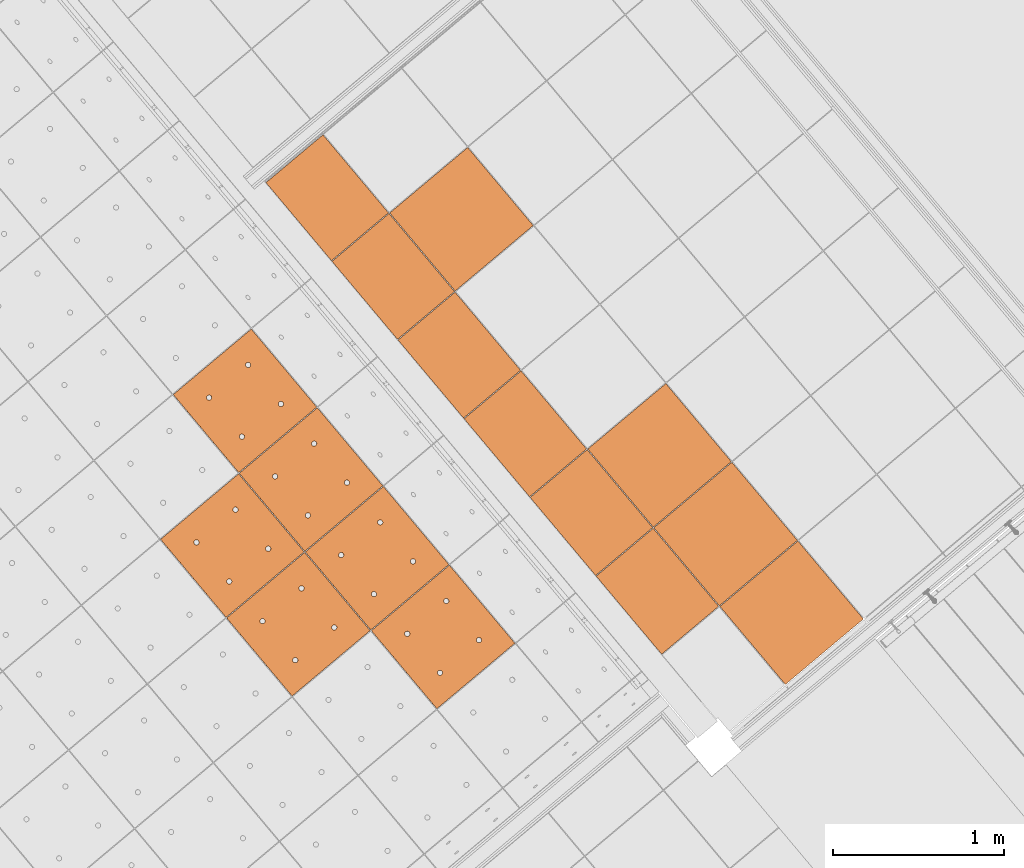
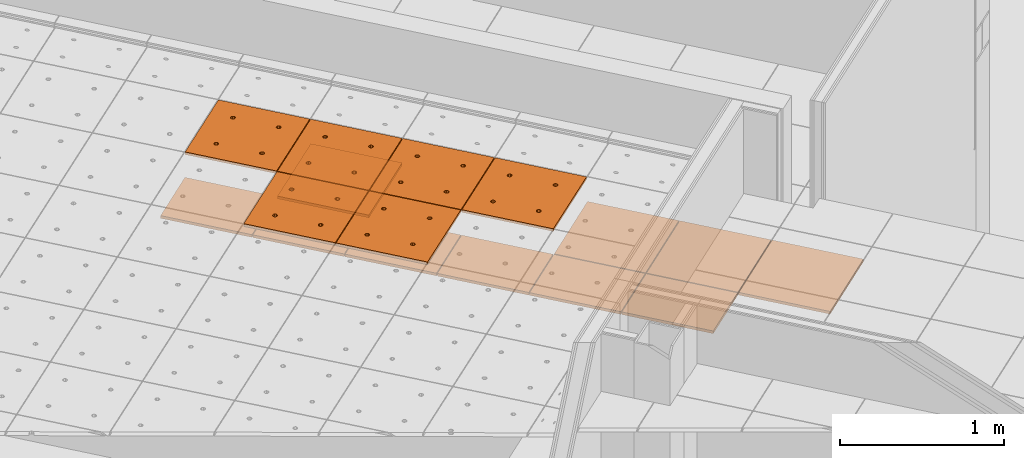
# One storey, part 174 of 338: 16 proxies, 2 elements without a shape of their own.
"""IFC2X3 building model written with IfcOpenShell, lengths in millimetres."""

from ifc_helpers import new_model, entity, si_unit, converted_unit, derived_unit, money_unit, direction, frame, origin_with_axes, place, context, subcontext, project, spatial, faceted_brep, source, transform, mapped, material, type_object, type_shapes, element, aggregate, save


model = new_model("IFC2X3")

# Units and contexts
model_context = context("Model", 3, precision=0.01, world=origin_with_axes(), true_north=direction((0.0, 1.0)))
plan_context = context("Plan", 3, precision=0.01, world=origin_with_axes(), true_north=direction((0.0, 1.0)))
body_context = subcontext(model_context, "Body", "Model", "MODEL_VIEW")
ifc_project = project(units=[si_unit("LENGTHUNIT", "METRE", prefix="MILLI"), si_unit("AREAUNIT", "SQUARE_METRE"), si_unit("VOLUMEUNIT", "CUBIC_METRE"), converted_unit("PLANEANGLEUNIT", "DEGREE", entity("IfcPlaneAngleMeasure", 0.0174532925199), si_unit("PLANEANGLEUNIT", "RADIAN"), dimensions=[0, 0, 0, 0, 0, 0, 0]), money_unit("EUR"), converted_unit("TIMEUNIT", "Year", entity("IfcTimeMeasure", 31556926.0), si_unit("TIMEUNIT", "SECOND"), dimensions=[0, 0, 1, 0, 0, 0, 0]), si_unit("MASSUNIT", "GRAM", prefix="KILO"), si_unit("THERMODYNAMICTEMPERATUREUNIT", "DEGREE_CELSIUS"), si_unit("LUMINOUSINTENSITYUNIT", "LUMEN"), si_unit("ENERGYUNIT", "JOULE", prefix="MEGA"), derived_unit("THERMALCONDUCTANCEUNIT", [(si_unit("POWERUNIT", "WATT"), 1), (si_unit("LENGTHUNIT", "METRE"), -1), (si_unit("THERMODYNAMICTEMPERATUREUNIT", "KELVIN"), -1)]), derived_unit("SPECIFICHEATCAPACITYUNIT", [(si_unit("ENERGYUNIT", "JOULE"), 1), (si_unit("MASSUNIT", "GRAM", prefix="KILO"), -1), (si_unit("THERMODYNAMICTEMPERATUREUNIT", "KELVIN"), -1)]), derived_unit("MASSDENSITYUNIT", [(si_unit("MASSUNIT", "GRAM", prefix="KILO"), 1), (si_unit("VOLUMEUNIT", "CUBIC_METRE"), -1)])], contexts=[model_context, plan_context])

# Site, building, storey
site_placement = place(None, origin_with_axes())
site = spatial("IfcSite", under=ifc_project, at=site_placement, Name="Fortuinstraat Woensdrecht", CompositionType="ELEMENT")
building_placement = place(site_placement, origin_with_axes())
building = spatial("IfcBuilding", under=site, at=building_placement, Name="IKC Fortuna", CompositionType="ELEMENT")
storey_placement = place(building_placement, origin_with_axes())
storey = spatial("IfcBuildingStorey", under=building, at=storey_placement, Name="00 begane grond", CompositionType="ELEMENT", Elevation=0.0)

# Covering, proxies
covering_type = type_object("IfcCoveringType", Name="Curtain Wall Type", PredefinedType="CEILING")
covering_1_placement = place(storey_placement, frame((15581.2998521, 5435.5548951, 3210.0), z_axis=(0.0, 0.0, 1.0), x_axis=(1.0, 0.0, 0.0)))
covering_1 = element("IfcCovering", 1, at=covering_1_placement, inside=storey, type_object=covering_type, Name="45_Plafondafwerking_P02 v", PredefinedType="CEILING")
ifc_material = material(Name="Gipsplaat")
building_element_proxy_type_1 = type_object("IfcBuildingElementProxyType", Name="Distinct Panel 600 x 600 x 20", PredefinedType="NOTDEFINED")
shared_shape_1 = source(origin_with_axes(), body_context, "Body", "Brep", [
    faceted_brep([(-597.499994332, 2.50000201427, -10.0), (-597.499994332, 2.50000201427, 10.0), (-597.499997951, 597.499994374, 10.0), (-597.499997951, 597.499994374, -10.0), (-2.50001005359, 2.49999600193, -10.0), (-2.50001005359, 2.49999600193, 10.0), (-2.49999596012, 597.499989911, 10.0), (-2.49999596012, 597.499989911, -10.0)], [[[0, 1, 2, 3]], [[4, 5, 1, 0]], [[1, 5, 6, 2]], [[3, 2, 6, 7]], [[0, 3, 7, 4]], [[7, 6, 5, 4]]]),
])
proxy_1_placement = place(covering_1_placement, frame((-758.770618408, 1713.04907858, 0.0), z_axis=(0.0, 0.0, 1.0), x_axis=(1.0, 0.0, 0.0)))
proxy_1 = element("IfcBuildingElementProxy", 2, at=proxy_1_placement, type_object=building_element_proxy_type_1, material=ifc_material, Name="__Panel-D", context=body_context, shape_type="MappedRepresentation", body=[
    mapped(shared_shape_1, transform((-422.649621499, 36.9769853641, 0.0), x_axis=(-0.766044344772, -0.642787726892, 0.0), y_axis=(0.642787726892, -0.766044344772, 0.0), z_axis=(0.0, 0.0, 1.0))),
])
proxy_2_placement = place(covering_1_placement, frame((783.919926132, -125.457348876, 0.0), z_axis=(0.0, 0.0, 1.0), x_axis=(1.0, 0.0, 0.0)))
proxy_2 = element("IfcBuildingElementProxy", 3, at=proxy_2_placement, type_object=building_element_proxy_type_1, material=ifc_material, Name="__Panel-D", context=body_context, shape_type="MappedRepresentation", body=[
    mapped(shared_shape_1, transform((-422.649621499, 36.9769853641, 0.0), x_axis=(-0.766044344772, -0.642787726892, 0.0), y_axis=(0.642787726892, -0.766044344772, 0.0), z_axis=(0.0, 0.0, 1.0))),
])
shared_shape_2 = source(origin_with_axes(), body_context, "Body", "Brep", [
    faceted_brep([(-597.500003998, 2.50001005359, -10.0), (-597.500003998, 2.50001005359, 10.0), (-597.499997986, 597.499994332, 10.0), (-597.499997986, 597.499994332, -10.0), (-2.50001008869, 2.4999959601, -10.0), (-2.50001008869, 2.4999959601, 10.0), (-2.50000562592, 597.499997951, 10.0), (-2.50000562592, 597.499997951, -10.0)], [[[0, 1, 2, 3]], [[4, 5, 1, 0]], [[1, 5, 6, 2]], [[3, 2, 6, 7]], [[0, 3, 7, 4]], [[7, 6, 5, 4]]]),
])
proxy_3_placement = place(covering_1_placement, frame((398.247289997, 334.169257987, 0.0), z_axis=(0.0, 0.0, 1.0), x_axis=(1.0, 0.0, 0.0)))
proxy_3 = element("IfcBuildingElementProxy", 4, at=proxy_3_placement, type_object=building_element_proxy_type_1, material=ifc_material, Name="__Panel-D", context=body_context, shape_type="MappedRepresentation", body=[
    mapped(shared_shape_2, transform((-422.649621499, 36.9769853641, 0.0), x_axis=(-0.766044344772, -0.642787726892, 0.0), y_axis=(0.642787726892, -0.766044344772, 0.0), z_axis=(0.0, 0.0, 1.0))),
])
building_element_proxy_type_2 = type_object("IfcBuildingElementProxyType", Name="Distinct Panel 440 x 600 x 20", PredefinedType="NOTDEFINED")
shared_shape_3 = source(origin_with_axes(), body_context, "Body", "Brep", [
    faceted_brep([(-597.49999798, 2.49998182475, -10.0), (-597.49999798, 2.49998182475, 10.0), (-597.499996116, 597.500003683, 10.0), (-597.499996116, 597.500003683, -10.0), (-162.749596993, 2.49999117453, -10.0), (-162.749596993, 2.49999117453, 10.0), (-162.749602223, 597.500004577, 10.0), (-162.749602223, 597.500004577, -10.0)], [[[0, 1, 2, 3]], [[4, 5, 1, 0]], [[1, 5, 6, 2]], [[3, 2, 6, 7]], [[0, 3, 7, 4]], [[7, 6, 5, 4]]]),
])
proxy_4_placement = place(covering_1_placement, frame((-1157.01791089, 1378.87981851, 0.0), z_axis=(0.0, 0.0, 1.0), x_axis=(1.0, 0.0, 0.0)))
proxy_4 = element("IfcBuildingElementProxy", 5, at=proxy_4_placement, type_object=building_element_proxy_type_2, material=ifc_material, Name="__Panel-D", context=body_context, shape_type="MappedRepresentation", body=[
    mapped(shared_shape_3, transform((-484.028935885, -14.5263907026, 0.0), x_axis=(-0.766044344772, -0.642787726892, 0.0), y_axis=(0.642787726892, -0.766044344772, 0.0), z_axis=(0.0, 0.0, 1.0))),
])
proxy_5_placement = place(covering_1_placement, frame((-385.672636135, 459.626606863, 0.0), z_axis=(0.0, 0.0, 1.0), x_axis=(1.0, 0.0, 0.0)))
proxy_5 = element("IfcBuildingElementProxy", 6, at=proxy_5_placement, type_object=building_element_proxy_type_2, material=ifc_material, Name="__Panel-D", context=body_context, shape_type="MappedRepresentation", body=[
    mapped(shared_shape_3, transform((-484.028938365, -14.5263927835, 0.0), x_axis=(-0.766044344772, -0.642787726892, 0.0), y_axis=(0.642787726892, -0.766044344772, 0.0), z_axis=(0.0, 0.0, 1.0))),
])
proxy_6_placement = place(covering_1_placement, frame((385.672636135, -459.626606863, 0.0), z_axis=(0.0, 0.0, 1.0), x_axis=(1.0, 0.0, 0.0)))
proxy_6 = element("IfcBuildingElementProxy", 7, at=proxy_6_placement, type_object=building_element_proxy_type_2, material=ifc_material, Name="__Panel-D", context=body_context, shape_type="MappedRepresentation", body=[
    mapped(shared_shape_3, transform((-484.028938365, -14.5263927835, 0.0), x_axis=(-0.766044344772, -0.642787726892, 0.0), y_axis=(0.642787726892, -0.766044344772, 0.0), z_axis=(0.0, 0.0, 1.0))),
])
proxy_7_placement = place(covering_1_placement, frame((-1542.69054362, 1838.50642823, 0.0), z_axis=(0.0, 0.0, 1.0), x_axis=(1.0, 0.0, 0.0)))
proxy_7 = element("IfcBuildingElementProxy", 8, at=proxy_7_placement, type_object=building_element_proxy_type_2, material=ifc_material, Name="__Panel-D", context=body_context, shape_type="MappedRepresentation", body=[
    mapped(shared_shape_3, transform((-484.028939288, -14.5263935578, 0.0), x_axis=(-0.766044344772, -0.642787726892, 0.0), y_axis=(0.642787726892, -0.766044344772, 0.0), z_axis=(0.0, 0.0, 1.0))),
])
shared_shape_4 = source(origin_with_axes(), body_context, "Body", "Brep", [
    faceted_brep([(-597.500000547, 2.49998396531, -10.0), (-597.500000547, 2.49998396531, 10.0), (-597.499998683, 597.500004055, 10.0), (-597.499998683, 597.500004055, -10.0), (-162.749600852, 2.49999331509, -10.0), (-162.749600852, 2.49999331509, 10.0), (-162.749598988, 597.500013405, 10.0), (-162.749598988, 597.500013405, -10.0)], [[[0, 1, 2, 3]], [[4, 5, 1, 0]], [[1, 5, 6, 2]], [[3, 2, 6, 7]], [[0, 3, 7, 4]], [[7, 6, 5, 4]]]),
])
type_shapes(building_element_proxy_type_2, [shared_shape_3, shared_shape_4])
proxy_8_placement = place(covering_1_placement, origin_with_axes())
proxy_8 = element("IfcBuildingElementProxy", 9, at=proxy_8_placement, type_object=building_element_proxy_type_2, material=ifc_material, Name="__Panel-D", context=body_context, shape_type="MappedRepresentation", body=[
    mapped(shared_shape_4, transform((-484.028938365, -14.5263927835, 0.0), x_axis=(-0.766044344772, -0.642787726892, 0.0), y_axis=(0.642787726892, -0.766044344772, 0.0), z_axis=(0.0, 0.0, 1.0))),
])
proxy_9_placement = place(covering_1_placement, frame((-771.34527227, 919.253213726, 0.0), z_axis=(0.0, 0.0, 1.0), x_axis=(1.0, 0.0, 0.0)))
proxy_9 = element("IfcBuildingElementProxy", 10, at=proxy_9_placement, type_object=building_element_proxy_type_2, material=ifc_material, Name="__Panel-D", context=body_context, shape_type="MappedRepresentation", body=[
    mapped(shared_shape_4, transform((-484.028938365, -14.5263927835, 0.0), x_axis=(-0.766044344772, -0.642787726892, 0.0), y_axis=(0.642787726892, -0.766044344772, 0.0), z_axis=(0.0, 0.0, 1.0))),
])
shared_shape_5 = source(origin_with_axes(), body_context, "Body", "Brep", [
    faceted_brep([(-597.500003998, 2.50001005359, -10.0), (-597.500003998, 2.50001005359, 10.0), (-597.499997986, 597.499994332, 10.0), (-597.499997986, 597.499994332, -10.0), (-2.50001008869, 2.4999959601, -10.0), (-2.50001008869, 2.4999959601, 10.0), (-2.50000562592, 597.499997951, 10.0), (-2.50000562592, 597.499997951, -10.0)], [[[0, 1, 2, 3]], [[4, 5, 1, 0]], [[1, 5, 6, 2]], [[3, 2, 6, 7]], [[0, 3, 7, 4]], [[7, 6, 5, 4]]]),
])
type_shapes(building_element_proxy_type_1, [shared_shape_1, shared_shape_2, shared_shape_5])
proxy_10_placement = place(covering_1_placement, frame((1169.59256227, -585.083955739, 0.0), z_axis=(0.0, 0.0, 1.0), x_axis=(1.0, 0.0, 0.0)))
proxy_10 = element("IfcBuildingElementProxy", 11, at=proxy_10_placement, type_object=building_element_proxy_type_1, material=ifc_material, Name="__Panel-D", context=body_context, shape_type="MappedRepresentation", body=[
    mapped(shared_shape_5, transform((-422.649621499, 36.9769853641, 0.0), x_axis=(-0.766044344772, -0.642787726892, 0.0), y_axis=(0.642787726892, -0.766044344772, 0.0), z_axis=(0.0, 0.0, 1.0))),
])
aggregate(covering_1, [proxy_8, proxy_3, proxy_10, proxy_4, proxy_5, proxy_1, proxy_9, proxy_6, proxy_7, proxy_2])

covering_2_placement = place(storey_placement, frame((15863.124366, 4456.31398675, 4619.99995334), z_axis=(0.0, 0.0, 1.0), x_axis=(1.0, 0.0, 0.0)))
covering_2 = element("IfcCovering", 12, at=covering_2_placement, inside=storey, type_object=covering_type, Name="45_Plafondafwerking_P01", PredefinedType="CEILING")
building_element_proxy_type_3 = type_object("IfcBuildingElementProxyType", Name="Main Panel 600 x 600 x 20", PredefinedType="NOTDEFINED")
shared_shape_6 = source(origin_with_axes(), body_context, "Body", "Brep", [
    faceted_brep([(2.50000262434, 2.50000269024, -10.0), (299.999999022, 2.50000269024, -10.0), (299.999999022, 2.50000269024, 10.0), (2.50000262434, 2.50000269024, 10.0), (2.50000262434, 300.000003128, -10.0), (2.50000262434, 597.500003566, -10.0), (299.999999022, 597.500003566, -10.0), (597.499995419, 597.500003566, -10.0), (597.499995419, 300.000003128, -10.0), (597.499995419, 2.50000269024, -10.0), (166.250000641, 450.062333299, -10.0), (165.794233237, 452.647118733, -10.0), (164.896546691, 455.113492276, -10.0), (163.584216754, 457.386514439, -10.0), (161.897117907, 459.397120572, -10.0), (159.886511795, 461.084219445, -10.0), (157.613489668, 462.396549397, -10.0), (155.147116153, 463.294235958, -10.0), (152.56233076, 463.750003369, -10.0), (149.937670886, 463.750003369, -10.0), (147.352885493, 463.294235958, -10.0), (144.886511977, 462.396549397, -10.0), (142.61348985, 461.084219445, -10.0), (140.602883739, 459.397120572, -10.0), (138.915784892, 457.386514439, -10.0), (137.603454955, 455.113492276, -10.0), (136.705768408, 452.647118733, -10.0), (136.250001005, 450.062333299, -10.0), (136.250001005, 448.750003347, -10.0), (136.250001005, 447.437673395, -10.0), (136.705768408, 444.852887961, -10.0), (137.603454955, 442.386514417, -10.0), (138.915784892, 440.113492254, -10.0), (140.602883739, 438.102886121, -10.0), (142.61348985, 436.415787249, -10.0), (144.886511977, 435.103457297, -10.0), (147.352885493, 434.205770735, -10.0), (149.937670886, 433.750003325, -10.0), (152.56233076, 433.750003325, -10.0), (155.147116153, 434.205770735, -10.0), (157.613489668, 435.103457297, -10.0), (159.886511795, 436.415787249, -10.0), (161.897117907, 438.102886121, -10.0), (163.584216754, 440.113492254, -10.0), (164.896546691, 442.386514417, -10.0), (165.794233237, 444.852887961, -10.0), (166.250000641, 447.437673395, -10.0), (463.749997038, 450.062333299, -10.0), (463.294229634, 452.647118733, -10.0), (462.396543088, 455.113492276, -10.0), (461.084213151, 457.386514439, -10.0), (459.397114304, 459.397120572, -10.0), (457.386508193, 461.084219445, -10.0), (455.113486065, 462.396549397, -10.0), (452.64711255, 463.294235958, -10.0), (450.062327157, 463.750003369, -10.0), (447.437667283, 463.750003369, -10.0), (444.85288189, 463.294235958, -10.0), (442.386508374, 462.396549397, -10.0), (440.113486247, 461.084219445, -10.0), (438.102880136, 459.397120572, -10.0), (436.415781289, 457.386514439, -10.0), (435.103451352, 455.113492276, -10.0), (434.205764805, 452.647118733, -10.0), (433.749997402, 450.062333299, -10.0), (433.749997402, 448.750003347, -10.0), (433.749997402, 447.437673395, -10.0), (434.205764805, 444.852887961, -10.0), (435.103451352, 442.386514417, -10.0), (436.415781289, 440.113492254, -10.0), (438.102880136, 438.102886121, -10.0), (440.113486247, 436.415787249, -10.0), (442.386508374, 435.103457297, -10.0), (444.85288189, 434.205770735, -10.0), (447.437667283, 433.750003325, -10.0), (450.062327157, 433.750003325, -10.0), (452.64711255, 434.205770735, -10.0), (455.113486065, 435.103457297, -10.0), (457.386508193, 436.415787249, -10.0), (459.397114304, 438.102886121, -10.0), (461.084213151, 440.113492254, -10.0), (462.396543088, 442.386514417, -10.0), (463.294229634, 444.852887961, -10.0), (463.749997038, 447.437673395, -10.0), (463.749997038, 152.562332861, -10.0), (463.294229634, 155.147118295, -10.0), (462.396543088, 157.613491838, -10.0), (461.084213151, 159.886514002, -10.0), (459.397114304, 161.897120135, -10.0), (457.386508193, 163.584219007, -10.0), (455.113486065, 164.896548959, -10.0), (452.64711255, 165.79423552, -10.0), (450.062327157, 166.250002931, -10.0), (447.437667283, 166.250002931, -10.0), (444.85288189, 165.79423552, -10.0), (442.386508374, 164.896548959, -10.0), (440.113486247, 163.584219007, -10.0), (438.102880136, 161.897120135, -10.0), (436.415781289, 159.886514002, -10.0), (435.103451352, 157.613491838, -10.0), (434.205764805, 155.147118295, -10.0), (433.749997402, 152.562332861, -10.0), (433.749997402, 151.250002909, -10.0), (433.749997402, 149.937672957, -10.0), (434.205764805, 147.352887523, -10.0), (435.103451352, 144.88651398, -10.0), (436.415781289, 142.613491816, -10.0), (438.102880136, 140.602885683, -10.0), (440.113486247, 138.915786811, -10.0), (442.386508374, 137.603456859, -10.0), (444.85288189, 136.705770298, -10.0), (447.437667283, 136.250002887, -10.0), (450.062327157, 136.250002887, -10.0), (452.64711255, 136.705770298, -10.0), (455.113486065, 137.603456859, -10.0), (457.386508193, 138.915786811, -10.0), (459.397114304, 140.602885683, -10.0), (461.084213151, 142.613491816, -10.0), (462.396543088, 144.88651398, -10.0), (463.294229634, 147.352887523, -10.0), (463.749997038, 149.937672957, -10.0), (166.250000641, 152.562332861, -10.0), (165.794233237, 155.147118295, -10.0), (164.896546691, 157.613491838, -10.0), (163.584216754, 159.886514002, -10.0), (161.897117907, 161.897120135, -10.0), (159.886511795, 163.584219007, -10.0), (157.613489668, 164.896548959, -10.0), (155.147116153, 165.79423552, -10.0), (152.56233076, 166.250002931, -10.0), (149.937670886, 166.250002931, -10.0), (147.352885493, 165.79423552, -10.0), (144.886511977, 164.896548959, -10.0), (142.61348985, 163.584219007, -10.0), (140.602883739, 161.897120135, -10.0), (138.915784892, 159.886514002, -10.0), (137.603454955, 157.613491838, -10.0), (136.705768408, 155.147118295, -10.0), (136.250001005, 152.562332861, -10.0), (136.250001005, 151.250002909, -10.0), (136.250001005, 149.937672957, -10.0), (136.705768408, 147.352887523, -10.0), (137.603454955, 144.88651398, -10.0), (138.915784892, 142.613491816, -10.0), (140.602883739, 140.602885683, -10.0), (142.61348985, 138.915786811, -10.0), (144.886511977, 137.603456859, -10.0), (147.352885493, 136.705770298, -10.0), (149.937670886, 136.250002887, -10.0), (152.56233076, 136.250002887, -10.0), (155.147116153, 136.705770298, -10.0), (157.613489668, 137.603456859, -10.0), (159.886511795, 138.915786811, -10.0), (161.897117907, 140.602885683, -10.0), (163.584216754, 142.613491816, -10.0), (164.896546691, 144.88651398, -10.0), (165.794233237, 147.352887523, -10.0), (166.250000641, 149.937672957, -10.0), (597.499995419, 2.50000269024, 10.0), (597.499995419, 300.000003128, 10.0), (597.499995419, 597.500003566, 10.0), (299.999999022, 597.500003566, 10.0), (2.50000262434, 597.500003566, 10.0), (2.50000262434, 300.000003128, 10.0), (166.250000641, 450.062333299, 10.0), (166.250000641, 447.437673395, 10.0), (165.794233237, 444.852887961, 10.0), (164.896546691, 442.386514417, 10.0), (163.584216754, 440.113492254, 10.0), (161.897117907, 438.102886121, 10.0), (159.886511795, 436.415787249, 10.0), (157.613489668, 435.103457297, 10.0), (155.147116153, 434.205770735, 10.0), (152.56233076, 433.750003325, 10.0), (149.937670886, 433.750003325, 10.0), (147.352885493, 434.205770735, 10.0), (144.886511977, 435.103457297, 10.0), (142.61348985, 436.415787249, 10.0), (140.602883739, 438.102886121, 10.0), (138.915784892, 440.113492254, 10.0), (137.603454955, 442.386514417, 10.0), (136.705768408, 444.852887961, 10.0), (136.250001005, 447.437673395, 10.0), (136.250001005, 448.750003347, 10.0), (136.250001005, 450.062333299, 10.0), (136.705768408, 452.647118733, 10.0), (137.603454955, 455.113492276, 10.0), (138.915784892, 457.386514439, 10.0), (140.602883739, 459.397120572, 10.0), (142.61348985, 461.084219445, 10.0), (144.886511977, 462.396549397, 10.0), (147.352885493, 463.294235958, 10.0), (149.937670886, 463.750003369, 10.0), (152.56233076, 463.750003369, 10.0), (155.147116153, 463.294235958, 10.0), (157.613489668, 462.396549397, 10.0), (159.886511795, 461.084219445, 10.0), (161.897117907, 459.397120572, 10.0), (163.584216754, 457.386514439, 10.0), (164.896546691, 455.113492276, 10.0), (165.794233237, 452.647118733, 10.0), (463.749997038, 450.062333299, 10.0), (463.749997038, 447.437673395, 10.0), (463.294229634, 444.852887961, 10.0), (462.396543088, 442.386514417, 10.0), (461.084213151, 440.113492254, 10.0), (459.397114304, 438.102886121, 10.0), (457.386508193, 436.415787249, 10.0), (455.113486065, 435.103457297, 10.0), (452.64711255, 434.205770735, 10.0), (450.062327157, 433.750003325, 10.0), (447.437667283, 433.750003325, 10.0), (444.85288189, 434.205770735, 10.0), (442.386508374, 435.103457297, 10.0), (440.113486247, 436.415787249, 10.0), (438.102880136, 438.102886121, 10.0), (436.415781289, 440.113492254, 10.0), (435.103451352, 442.386514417, 10.0), (434.205764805, 444.852887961, 10.0), (433.749997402, 447.437673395, 10.0), (433.749997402, 448.750003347, 10.0), (433.749997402, 450.062333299, 10.0), (434.205764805, 452.647118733, 10.0), (435.103451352, 455.113492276, 10.0), (436.415781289, 457.386514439, 10.0), (438.102880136, 459.397120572, 10.0), (440.113486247, 461.084219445, 10.0), (442.386508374, 462.396549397, 10.0), (444.85288189, 463.294235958, 10.0), (447.437667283, 463.750003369, 10.0), (450.062327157, 463.750003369, 10.0), (452.64711255, 463.294235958, 10.0), (455.113486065, 462.396549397, 10.0), (457.386508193, 461.084219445, 10.0), (459.397114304, 459.397120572, 10.0), (461.084213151, 457.386514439, 10.0), (462.396543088, 455.113492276, 10.0), (463.294229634, 452.647118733, 10.0), (463.749997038, 152.562332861, 10.0), (463.749997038, 149.937672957, 10.0), (463.294229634, 147.352887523, 10.0), (462.396543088, 144.88651398, 10.0), (461.084213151, 142.613491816, 10.0), (459.397114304, 140.602885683, 10.0), (457.386508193, 138.915786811, 10.0), (455.113486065, 137.603456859, 10.0), (452.64711255, 136.705770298, 10.0), (450.062327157, 136.250002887, 10.0), (447.437667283, 136.250002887, 10.0), (444.85288189, 136.705770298, 10.0), (442.386508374, 137.603456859, 10.0), (440.113486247, 138.915786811, 10.0), (438.102880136, 140.602885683, 10.0), (436.415781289, 142.613491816, 10.0), (435.103451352, 144.88651398, 10.0), (434.205764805, 147.352887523, 10.0), (433.749997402, 149.937672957, 10.0), (433.749997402, 151.250002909, 10.0), (433.749997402, 152.562332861, 10.0), (434.205764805, 155.147118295, 10.0), (435.103451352, 157.613491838, 10.0), (436.415781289, 159.886514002, 10.0), (438.102880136, 161.897120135, 10.0), (440.113486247, 163.584219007, 10.0), (442.386508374, 164.896548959, 10.0), (444.85288189, 165.79423552, 10.0), (447.437667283, 166.250002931, 10.0), (450.062327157, 166.250002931, 10.0), (452.64711255, 165.79423552, 10.0), (455.113486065, 164.896548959, 10.0), (457.386508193, 163.584219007, 10.0), (459.397114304, 161.897120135, 10.0), (461.084213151, 159.886514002, 10.0), (462.396543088, 157.613491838, 10.0), (463.294229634, 155.147118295, 10.0), (166.250000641, 152.562332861, 10.0), (166.250000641, 149.937672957, 10.0), (165.794233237, 147.352887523, 10.0), (164.896546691, 144.88651398, 10.0), (163.584216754, 142.613491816, 10.0), (161.897117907, 140.602885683, 10.0), (159.886511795, 138.915786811, 10.0), (157.613489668, 137.603456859, 10.0), (155.147116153, 136.705770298, 10.0), (152.56233076, 136.250002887, 10.0), (149.937670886, 136.250002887, 10.0), (147.352885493, 136.705770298, 10.0), (144.886511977, 137.603456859, 10.0), (142.61348985, 138.915786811, 10.0), (140.602883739, 140.602885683, 10.0), (138.915784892, 142.613491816, 10.0), (137.603454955, 144.88651398, 10.0), (136.705768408, 147.352887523, 10.0), (136.250001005, 149.937672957, 10.0), (136.250001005, 151.250002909, 10.0), (136.250001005, 152.562332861, 10.0), (136.705768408, 155.147118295, 10.0), (137.603454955, 157.613491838, 10.0), (138.915784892, 159.886514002, 10.0), (140.602883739, 161.897120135, 10.0), (142.61348985, 163.584219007, 10.0), (144.886511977, 164.896548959, 10.0), (147.352885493, 165.79423552, 10.0), (149.937670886, 166.250002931, 10.0), (152.56233076, 166.250002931, 10.0), (155.147116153, 165.79423552, 10.0), (157.613489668, 164.896548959, 10.0), (159.886511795, 163.584219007, 10.0), (161.897117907, 161.897120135, 10.0), (163.584216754, 159.886514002, 10.0), (164.896546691, 157.613491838, 10.0), (165.794233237, 155.147118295, 10.0)], [[[0, 1, 2, 3]], [[0, 4, 5, 6, 7, 8, 9, 1], [10, 11, 12, 13, 14, 15, 16, 17, 18, 19, 20, 21, 22, 23, 24, 25, 26, 27, 28, 29, 30, 31, 32, 33, 34, 35, 36, 37, 38, 39, 40, 41, 42, 43, 44, 45, 46], [47, 48, 49, 50, 51, 52, 53, 54, 55, 56, 57, 58, 59, 60, 61, 62, 63, 64, 65, 66, 67, 68, 69, 70, 71, 72, 73, 74, 75, 76, 77, 78, 79, 80, 81, 82, 83], [84, 85, 86, 87, 88, 89, 90, 91, 92, 93, 94, 95, 96, 97, 98, 99, 100, 101, 102, 103, 104, 105, 106, 107, 108, 109, 110, 111, 112, 113, 114, 115, 116, 117, 118, 119, 120], [121, 122, 123, 124, 125, 126, 127, 128, 129, 130, 131, 132, 133, 134, 135, 136, 137, 138, 139, 140, 141, 142, 143, 144, 145, 146, 147, 148, 149, 150, 151, 152, 153, 154, 155, 156, 157]], [[1, 9, 158, 2]], [[3, 2, 158, 159, 160, 161, 162, 163], [164, 165, 166, 167, 168, 169, 170, 171, 172, 173, 174, 175, 176, 177, 178, 179, 180, 181, 182, 183, 184, 185, 186, 187, 188, 189, 190, 191, 192, 193, 194, 195, 196, 197, 198, 199, 200], [201, 202, 203, 204, 205, 206, 207, 208, 209, 210, 211, 212, 213, 214, 215, 216, 217, 218, 219, 220, 221, 222, 223, 224, 225, 226, 227, 228, 229, 230, 231, 232, 233, 234, 235, 236, 237], [238, 239, 240, 241, 242, 243, 244, 245, 246, 247, 248, 249, 250, 251, 252, 253, 254, 255, 256, 257, 258, 259, 260, 261, 262, 263, 264, 265, 266, 267, 268, 269, 270, 271, 272, 273, 274], [275, 276, 277, 278, 279, 280, 281, 282, 283, 284, 285, 286, 287, 288, 289, 290, 291, 292, 293, 294, 295, 296, 297, 298, 299, 300, 301, 302, 303, 304, 305, 306, 307, 308, 309, 310, 311]], [[4, 0, 3, 163]], [[5, 4, 163, 162]], [[6, 5, 162, 161]], [[7, 6, 161, 160]], [[8, 7, 160, 159]], [[9, 8, 159, 158]], [[11, 10, 164, 200]], [[12, 11, 200, 199]], [[13, 12, 199, 198]], [[14, 13, 198, 197]], [[15, 14, 197, 196]], [[16, 15, 196, 195]], [[17, 16, 195, 194]], [[18, 17, 194, 193]], [[19, 18, 193, 192]], [[20, 19, 192, 191]], [[21, 20, 191, 190]], [[22, 21, 190, 189]], [[23, 22, 189, 188]], [[24, 23, 188, 187]], [[25, 24, 187, 186]], [[26, 25, 186, 185]], [[27, 26, 185, 184]], [[28, 27, 184, 183]], [[29, 28, 183, 182]], [[30, 29, 182, 181]], [[31, 30, 181, 180]], [[32, 31, 180, 179]], [[33, 32, 179, 178]], [[34, 33, 178, 177]], [[35, 34, 177, 176]], [[36, 35, 176, 175]], [[37, 36, 175, 174]], [[38, 37, 174, 173]], [[39, 38, 173, 172]], [[40, 39, 172, 171]], [[41, 40, 171, 170]], [[42, 41, 170, 169]], [[43, 42, 169, 168]], [[44, 43, 168, 167]], [[45, 44, 167, 166]], [[46, 45, 166, 165]], [[10, 46, 165, 164]], [[48, 47, 201, 237]], [[49, 48, 237, 236]], [[50, 49, 236, 235]], [[51, 50, 235, 234]], [[52, 51, 234, 233]], [[53, 52, 233, 232]], [[54, 53, 232, 231]], [[55, 54, 231, 230]], [[56, 55, 230, 229]], [[57, 56, 229, 228]], [[58, 57, 228, 227]], [[59, 58, 227, 226]], [[60, 59, 226, 225]], [[61, 60, 225, 224]], [[62, 61, 224, 223]], [[63, 62, 223, 222]], [[64, 63, 222, 221]], [[65, 64, 221, 220]], [[66, 65, 220, 219]], [[67, 66, 219, 218]], [[68, 67, 218, 217]], [[69, 68, 217, 216]], [[70, 69, 216, 215]], [[71, 70, 215, 214]], [[72, 71, 214, 213]], [[73, 72, 213, 212]], [[74, 73, 212, 211]], [[75, 74, 211, 210]], [[76, 75, 210, 209]], [[77, 76, 209, 208]], [[78, 77, 208, 207]], [[79, 78, 207, 206]], [[80, 79, 206, 205]], [[81, 80, 205, 204]], [[82, 81, 204, 203]], [[83, 82, 203, 202]], [[47, 83, 202, 201]], [[85, 84, 238, 274]], [[86, 85, 274, 273]], [[87, 86, 273, 272]], [[88, 87, 272, 271]], [[89, 88, 271, 270]], [[90, 89, 270, 269]], [[91, 90, 269, 268]], [[92, 91, 268, 267]], [[93, 92, 267, 266]], [[94, 93, 266, 265]], [[95, 94, 265, 264]], [[96, 95, 264, 263]], [[97, 96, 263, 262]], [[98, 97, 262, 261]], [[99, 98, 261, 260]], [[100, 99, 260, 259]], [[101, 100, 259, 258]], [[102, 101, 258, 257]], [[103, 102, 257, 256]], [[104, 103, 256, 255]], [[105, 104, 255, 254]], [[106, 105, 254, 253]], [[107, 106, 253, 252]], [[108, 107, 252, 251]], [[109, 108, 251, 250]], [[110, 109, 250, 249]], [[111, 110, 249, 248]], [[112, 111, 248, 247]], [[113, 112, 247, 246]], [[114, 113, 246, 245]], [[115, 114, 245, 244]], [[116, 115, 244, 243]], [[117, 116, 243, 242]], [[118, 117, 242, 241]], [[119, 118, 241, 240]], [[120, 119, 240, 239]], [[84, 120, 239, 238]], [[122, 121, 275, 311]], [[123, 122, 311, 310]], [[124, 123, 310, 309]], [[125, 124, 309, 308]], [[126, 125, 308, 307]], [[127, 126, 307, 306]], [[128, 127, 306, 305]], [[129, 128, 305, 304]], [[130, 129, 304, 303]], [[131, 130, 303, 302]], [[132, 131, 302, 301]], [[133, 132, 301, 300]], [[134, 133, 300, 299]], [[135, 134, 299, 298]], [[136, 135, 298, 297]], [[137, 136, 297, 296]], [[138, 137, 296, 295]], [[139, 138, 295, 294]], [[140, 139, 294, 293]], [[141, 140, 293, 292]], [[142, 141, 292, 291]], [[143, 142, 291, 290]], [[144, 143, 290, 289]], [[145, 144, 289, 288]], [[146, 145, 288, 287]], [[147, 146, 287, 286]], [[148, 147, 286, 285]], [[149, 148, 285, 284]], [[150, 149, 284, 283]], [[151, 150, 283, 282]], [[152, 151, 282, 281]], [[153, 152, 281, 280]], [[154, 153, 280, 279]], [[155, 154, 279, 278]], [[156, 155, 278, 277]], [[157, 156, 277, 276]], [[121, 157, 276, 275]]]),
])
type_shapes(building_element_proxy_type_3, [shared_shape_6])
proxy_11_placement = place(covering_2_placement, frame((-2304.65760251, 1631.61520604, 3.78777225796), z_axis=(0.0, 0.0, 1.0), x_axis=(0.642787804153, -0.766044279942, 0.0)))
proxy_11 = element("IfcBuildingElementProxy", 13, at=proxy_11_placement, type_object=building_element_proxy_type_3, material=ifc_material, Name="__600x010 Rockfon Krios", context=body_context, shape_type="MappedRepresentation", body=[
    mapped(shared_shape_6, transform((-300.0, 299.995617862, -1.62150043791), x_axis=(0.0, -0.999985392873, 0.00540500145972), y_axis=(1.0, 0.0, 0.0), z_axis=(0.0, 0.00540500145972, 0.999985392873))),
])
proxy_12_placement = place(covering_2_placement, frame((-1918.98492002, 1171.98863807, 3.78777225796), z_axis=(0.0, 0.0, 1.0), x_axis=(0.642787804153, -0.766044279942, 0.0)))
proxy_12 = element("IfcBuildingElementProxy", 14, at=proxy_12_placement, type_object=building_element_proxy_type_3, material=ifc_material, Name="__600x023 Rockfon Krios", context=body_context, shape_type="MappedRepresentation", body=[
    mapped(shared_shape_6, transform((-300.0, 299.995617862, -1.62150043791), x_axis=(0.0, -0.999985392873, 0.00540500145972), y_axis=(1.0, 0.0, 0.0), z_axis=(0.0, 0.00540500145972, 0.999985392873))),
])
proxy_13_placement = place(covering_2_placement, frame((-2378.60477416, 786.321589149, 7.03077313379), z_axis=(0.0, 0.0, 1.0), x_axis=(0.642787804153, -0.766044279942, 0.0)))
proxy_13 = element("IfcBuildingElementProxy", 15, at=proxy_13_placement, type_object=building_element_proxy_type_3, material=ifc_material, Name="__600x024 Rockfon Krios", context=body_context, shape_type="MappedRepresentation", body=[
    mapped(shared_shape_6, transform((-300.0, 299.995617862, -1.62150043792), x_axis=(0.0, -0.999985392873, 0.00540500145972), y_axis=(1.0, 0.0, 0.0), z_axis=(0.0, 0.00540500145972, 0.999985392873))),
])
proxy_14_placement = place(covering_2_placement, frame((-1533.31223753, 712.362070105, 3.78777225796), z_axis=(0.0, 0.0, 1.0), x_axis=(0.642787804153, -0.766044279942, 0.0)))
proxy_14 = element("IfcBuildingElementProxy", 16, at=proxy_14_placement, type_object=building_element_proxy_type_3, material=ifc_material, Name="__600x036 Rockfon Krios", context=body_context, shape_type="MappedRepresentation", body=[
    mapped(shared_shape_6, transform((-300.0, 299.995617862, -1.62150043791), x_axis=(0.0, -0.999985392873, 0.00540500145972), y_axis=(1.0, 0.0, 0.0), z_axis=(0.0, 0.00540500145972, 0.999985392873))),
])
proxy_15_placement = place(covering_2_placement, frame((-1992.93209167, 326.695021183, 7.03077313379), z_axis=(0.0, 0.0, 1.0), x_axis=(0.642787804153, -0.766044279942, 0.0)))
proxy_15 = element("IfcBuildingElementProxy", 17, at=proxy_15_placement, type_object=building_element_proxy_type_3, material=ifc_material, Name="__600x037 Rockfon Krios", context=body_context, shape_type="MappedRepresentation", body=[
    mapped(shared_shape_6, transform((-300.0, 299.995617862, -1.62150043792), x_axis=(0.0, -0.999985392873, 0.00540500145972), y_axis=(1.0, 0.0, 0.0), z_axis=(0.0, 0.00540500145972, 0.999985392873))),
])
proxy_16_placement = place(covering_2_placement, frame((-1147.63955503, 252.73550214, 3.78777225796), z_axis=(0.0, 0.0, 1.0), x_axis=(0.642787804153, -0.766044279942, 0.0)))
proxy_16 = element("IfcBuildingElementProxy", 18, at=proxy_16_placement, type_object=building_element_proxy_type_3, material=ifc_material, Name="__600x049 Rockfon Krios", context=body_context, shape_type="MappedRepresentation", body=[
    mapped(shared_shape_6, transform((-300.0, 299.995617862, -1.62150043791), x_axis=(0.0, -0.999985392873, 0.00540500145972), y_axis=(1.0, 0.0, 0.0), z_axis=(0.0, 0.00540500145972, 0.999985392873))),
])
aggregate(covering_2, [proxy_11, proxy_12, proxy_13, proxy_14, proxy_15, proxy_16])

save(model, "model.ifc")
